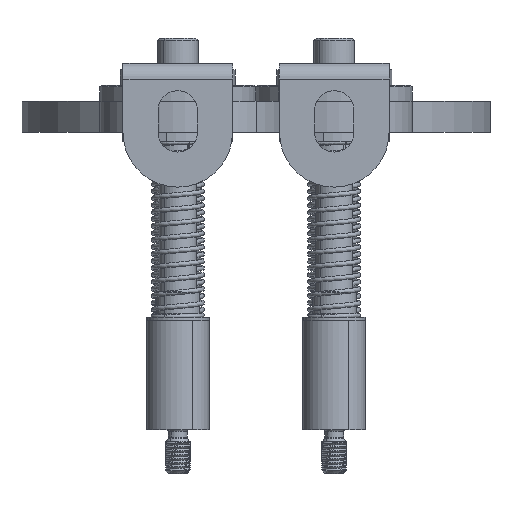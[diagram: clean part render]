
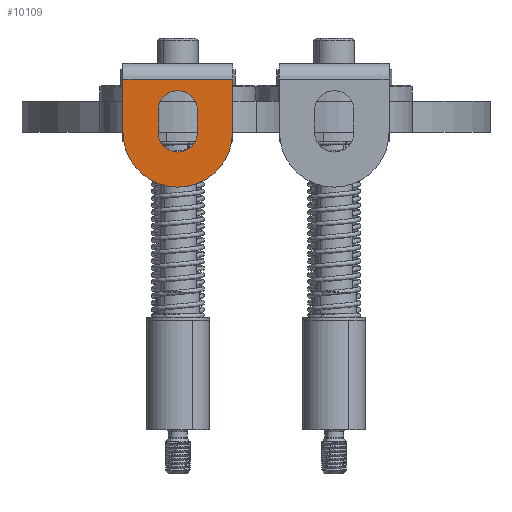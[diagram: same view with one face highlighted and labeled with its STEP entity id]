
A CAD part, left-side view. The second image highlights one B-rep face of the part: STEP entity #10109.
In plain terms, the highlighted planar face has unit normal (-1, 0, 0).
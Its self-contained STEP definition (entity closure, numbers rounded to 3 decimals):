
#714 = VERTEX_POINT ( 'NONE', #5963 ) ;
#731 = VERTEX_POINT ( 'NONE', #46688 ) ;
#1531 = EDGE_CURVE ( 'NONE', #714, #10996, #27225, .T. ) ;
#1779 = LINE ( 'NONE', #50431, #52370 ) ;
#1936 = EDGE_CURVE ( 'NONE', #48365, #37705, #6178, .T. ) ;
#2351 = EDGE_LOOP ( 'NONE', ( #13798, #23535, #21054, #6852, #27863 ) ) ;
#2454 = CIRCLE ( 'NONE', #20195, 6.3 ) ;
#3301 = DIRECTION ( 'NONE',  ( -1., 0., 0. ) ) ;
#4258 = ORIENTED_EDGE ( 'NONE', *, *, #36514, .T. ) ;
#4911 = ORIENTED_EDGE ( 'NONE', *, *, #1531, .T. ) ;
#5963 = CARTESIAN_POINT ( 'NONE',  ( -201.5, 7.5, 0. ) ) ;
#6178 = CIRCLE ( 'NONE', #37418, 6.3 ) ;
#6852 = ORIENTED_EDGE ( 'NONE', *, *, #10534, .F. ) ;
#7030 = VERTEX_POINT ( 'NONE', #10551 ) ;
#7115 = DIRECTION ( 'NONE',  ( -1., 0., 0. ) ) ;
#8028 = CARTESIAN_POINT ( 'NONE',  ( -201.5, 25., 7. ) ) ;
#8522 = ORIENTED_EDGE ( 'NONE', *, *, #45150, .T. ) ;
#9146 = EDGE_CURVE ( 'NONE', #36578, #7030, #33455, .T. ) ;
#10109 = ADVANCED_FACE ( 'NONE', ( #38534, #34574 ), #41998, .T. ) ;
#10408 = VERTEX_POINT ( 'NONE', #15512 ) ;
#10534 = EDGE_CURVE ( 'NONE', #7030, #48365, #16826, .T. ) ;
#10551 = CARTESIAN_POINT ( 'NONE',  ( -201.5, 31.3, 7. ) ) ;
#10996 = VERTEX_POINT ( 'NONE', #13344 ) ;
#11020 = VERTEX_POINT ( 'NONE', #30240 ) ;
#11081 = CARTESIAN_POINT ( 'NONE',  ( -201.5, 25., 7. ) ) ;
#12614 = DIRECTION ( 'NONE',  ( 0., 0., -1. ) ) ;
#13344 = CARTESIAN_POINT ( 'NONE',  ( -201.5, 7.5, 17. ) ) ;
#13798 = ORIENTED_EDGE ( 'NONE', *, *, #31970, .F. ) ;
#14010 = ORIENTED_EDGE ( 'NONE', *, *, #23385, .T. ) ;
#14236 = VECTOR ( 'NONE', #50872, 1000. ) ;
#15083 = EDGE_CURVE ( 'NONE', #37705, #731, #45393, .T. ) ;
#15512 = CARTESIAN_POINT ( 'NONE',  ( -201.5, 25., -17.5 ) ) ;
#16826 = LINE ( 'NONE', #29253, #24235 ) ;
#18513 = EDGE_LOOP ( 'NONE', ( #4911, #35138, #14010, #8522, #4258 ) ) ;
#19685 = VECTOR ( 'NONE', #50530, 1000. ) ;
#20195 = AXIS2_PLACEMENT_3D ( 'NONE', #11081, #7115, #36205 ) ;
#21054 = ORIENTED_EDGE ( 'NONE', *, *, #1936, .F. ) ;
#21892 = DIRECTION ( 'NONE',  ( 0., 0., 1. ) ) ;
#23239 = DIRECTION ( 'NONE',  ( -1., 0., 0. ) ) ;
#23385 = EDGE_CURVE ( 'NONE', #11020, #28454, #1779, .T. ) ;
#23535 = ORIENTED_EDGE ( 'NONE', *, *, #15083, .F. ) ;
#23769 = DIRECTION ( 'NONE',  ( -1., 0., 0. ) ) ;
#23893 = DIRECTION ( 'NONE',  ( 0., 0., 1. ) ) ;
#24235 = VECTOR ( 'NONE', #12614, 1000. ) ;
#24992 = AXIS2_PLACEMENT_3D ( 'NONE', #8028, #40297, #23893 ) ;
#25011 = DIRECTION ( 'NONE',  ( 0., 0., 1. ) ) ;
#25281 = CARTESIAN_POINT ( 'NONE',  ( -201.5, 18.7, 7. ) ) ;
#27225 = LINE ( 'NONE', #38612, #19685 ) ;
#27740 = CARTESIAN_POINT ( 'NONE',  ( -201.5, 25., 0. ) ) ;
#27863 = ORIENTED_EDGE ( 'NONE', *, *, #9146, .F. ) ;
#28454 = VERTEX_POINT ( 'NONE', #38316 ) ;
#29253 = CARTESIAN_POINT ( 'NONE',  ( -201.5, 31.3, 7. ) ) ;
#29486 = VECTOR ( 'NONE', #25011, 1000. ) ;
#29912 = CIRCLE ( 'NONE', #51876, 17.5 ) ;
#30160 = CIRCLE ( 'NONE', #48740, 17.5 ) ;
#30240 = CARTESIAN_POINT ( 'NONE',  ( -201.5, 42.5, 17. ) ) ;
#30514 = EDGE_CURVE ( 'NONE', #10996, #11020, #50084, .T. ) ;
#31970 = EDGE_CURVE ( 'NONE', #731, #36578, #2454, .T. ) ;
#33455 = CIRCLE ( 'NONE', #24992, 6.3 ) ;
#34386 = AXIS2_PLACEMENT_3D ( 'NONE', #38807, #50191, #21892 ) ;
#34574 = FACE_OUTER_BOUND ( 'NONE', #18513, .T. ) ;
#35138 = ORIENTED_EDGE ( 'NONE', *, *, #30514, .T. ) ;
#36205 = DIRECTION ( 'NONE',  ( 0., 0., 1. ) ) ;
#36476 = DIRECTION ( 'NONE',  ( 0., 0., 1. ) ) ;
#36514 = EDGE_CURVE ( 'NONE', #10408, #714, #30160, .T. ) ;
#36578 = VERTEX_POINT ( 'NONE', #48005 ) ;
#37418 = AXIS2_PLACEMENT_3D ( 'NONE', #51822, #23769, #39911 ) ;
#37705 = VERTEX_POINT ( 'NONE', #52254 ) ;
#38316 = CARTESIAN_POINT ( 'NONE',  ( -201.5, 42.5, 0. ) ) ;
#38534 = FACE_BOUND ( 'NONE', #2351, .T. ) ;
#38612 = CARTESIAN_POINT ( 'NONE',  ( -201.5, 7.5, 20. ) ) ;
#38793 = DIRECTION ( 'NONE',  ( 0., 0., -1. ) ) ;
#38807 = CARTESIAN_POINT ( 'NONE',  ( -201.5, 25., 0. ) ) ;
#39538 = CARTESIAN_POINT ( 'NONE',  ( -201.5, 25., 0. ) ) ;
#39911 = DIRECTION ( 'NONE',  ( 0., 0., 1. ) ) ;
#40194 = CARTESIAN_POINT ( 'NONE',  ( -201.5, 31.3, 0. ) ) ;
#40297 = DIRECTION ( 'NONE',  ( -1., 0., 0. ) ) ;
#41998 = PLANE ( 'NONE',  #34386 ) ;
#42405 = CARTESIAN_POINT ( 'NONE',  ( -201.5, 25., 17. ) ) ;
#43774 = DIRECTION ( 'NONE',  ( 0., 0., 1. ) ) ;
#45150 = EDGE_CURVE ( 'NONE', #28454, #10408, #29912, .T. ) ;
#45393 = LINE ( 'NONE', #25281, #29486 ) ;
#46688 = CARTESIAN_POINT ( 'NONE',  ( -201.5, 18.7, 7. ) ) ;
#48005 = CARTESIAN_POINT ( 'NONE',  ( -201.5, 25., 13.3 ) ) ;
#48365 = VERTEX_POINT ( 'NONE', #40194 ) ;
#48740 = AXIS2_PLACEMENT_3D ( 'NONE', #39538, #3301, #43774 ) ;
#50084 = LINE ( 'NONE', #42405, #14236 ) ;
#50191 = DIRECTION ( 'NONE',  ( -1., 0., 0. ) ) ;
#50431 = CARTESIAN_POINT ( 'NONE',  ( -201.5, 42.5, 0. ) ) ;
#50530 = DIRECTION ( 'NONE',  ( 0., 0., 1. ) ) ;
#50872 = DIRECTION ( 'NONE',  ( 0., 1., 0. ) ) ;
#51822 = CARTESIAN_POINT ( 'NONE',  ( -201.5, 25., 0. ) ) ;
#51876 = AXIS2_PLACEMENT_3D ( 'NONE', #27740, #23239, #36476 ) ;
#52254 = CARTESIAN_POINT ( 'NONE',  ( -201.5, 18.7, 0. ) ) ;
#52370 = VECTOR ( 'NONE', #38793, 1000. ) ;
